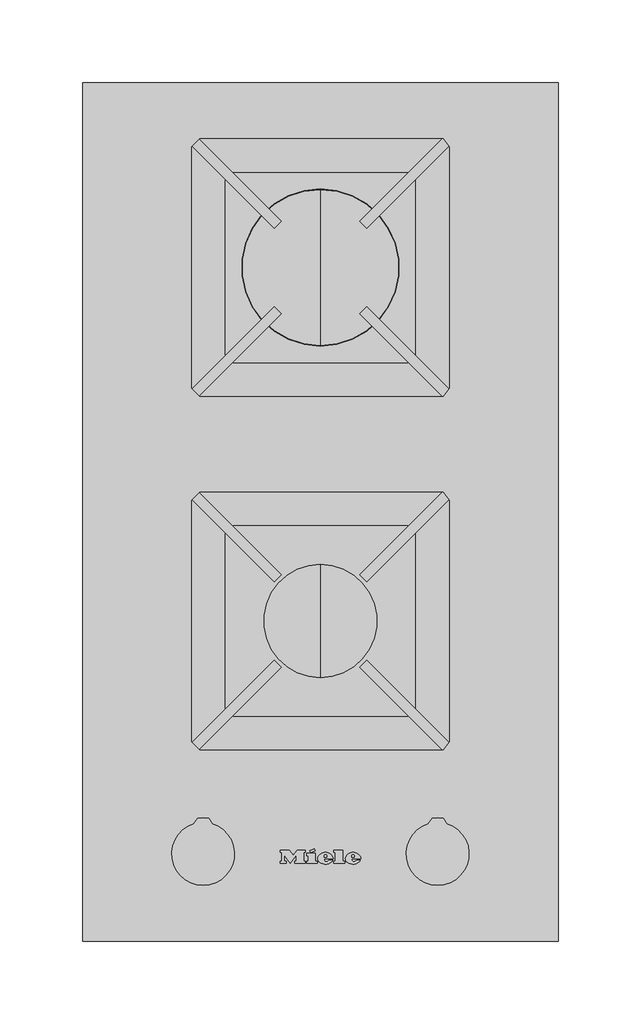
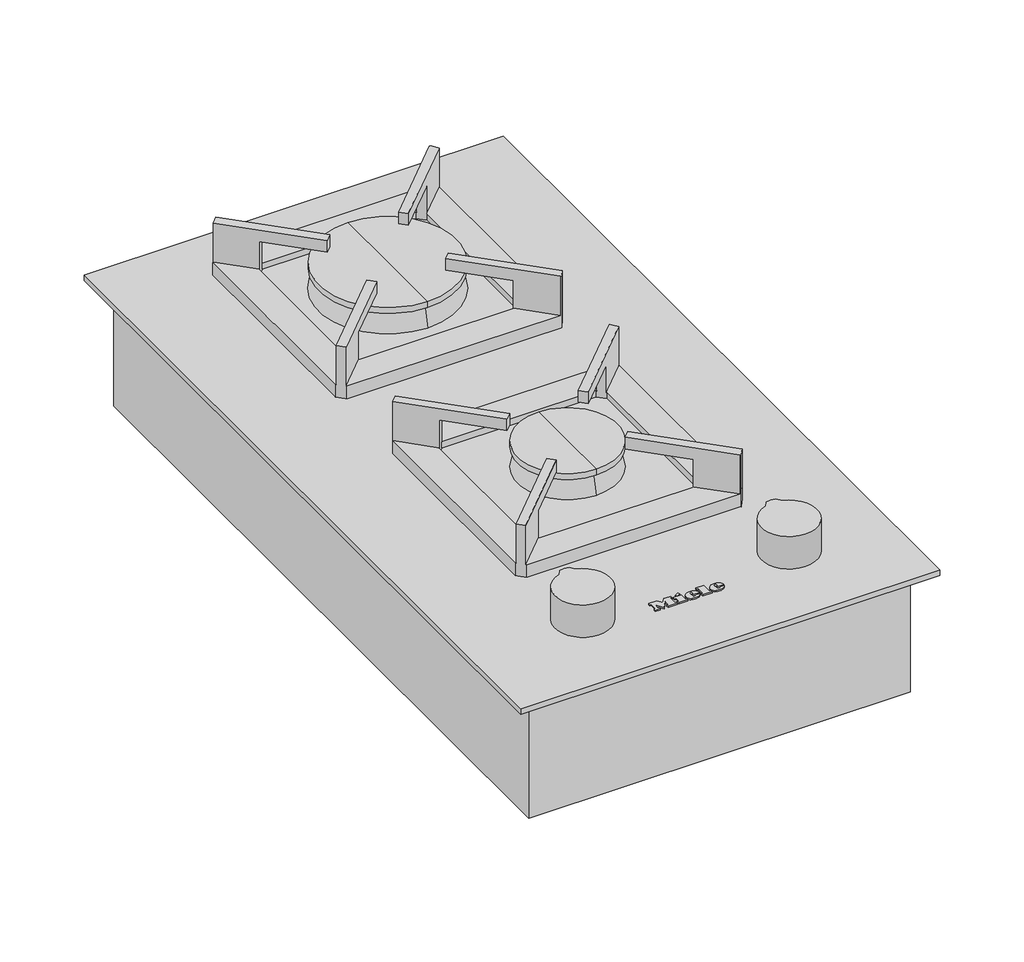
# Not in any storey: 1 proxy.
"""IFC4 building model written with IfcOpenShell, lengths in millimetres."""

from ifc_helpers import new_model, si_unit, origin, place, context, project, spatial, transform, mapped, element, save
from components import specialty_equipment_6208a6e8

model = new_model("IFC4")

# Units and contexts
model_context = context("Model", 3, world=origin())
ifc_project = project(units=[si_unit("LENGTHUNIT", "METRE", prefix="MILLI")], contexts=[model_context])

# Site, building
site = spatial("IfcSite", under=ifc_project)
building = spatial("IfcBuilding", under=site)

# Proxy
placement = place(None, origin())
specialty_equipment_shape = specialty_equipment_6208a6e8(model_context)
element("IfcBuildingElementProxy", 1, Name="12303270_SG_CS7152FL : 27715250_SG_12303270_CS7152FL", ObjectType="12303270_SG_CS7152FL : 27715250_SG_12303270_CS7152FL", at=placement, inside=building, context=model_context, shape_type="MappedRepresentation", body=[
    mapped(specialty_equipment_shape, transform((0.0, 0.0, 0.0), x_axis=(1.0, 0.0, 0.0), y_axis=(0.0, 1.0, 0.0), z_axis=(0.0, 0.0, 1.0))),
])

save(model, "model.ifc")
